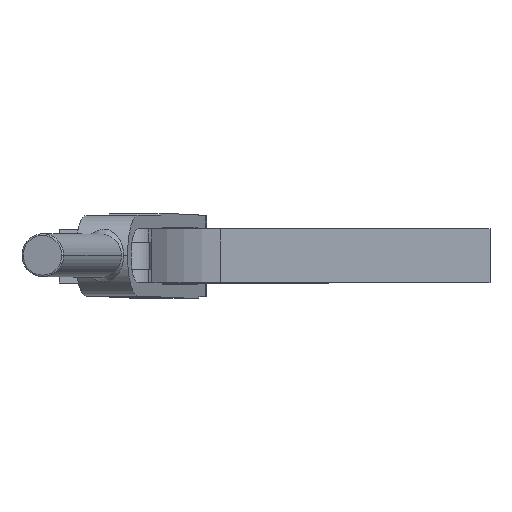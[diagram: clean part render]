
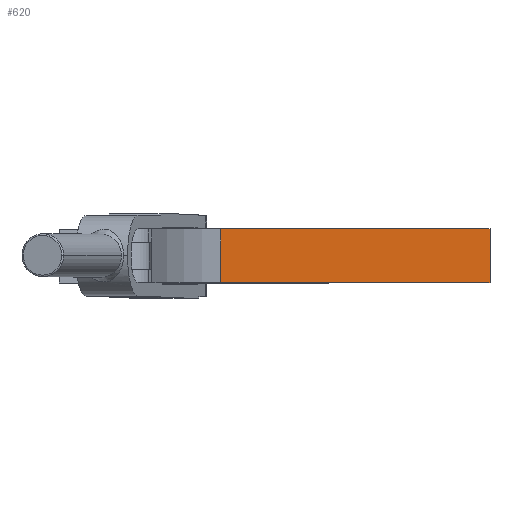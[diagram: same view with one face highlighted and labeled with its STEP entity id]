
A CAD part, top view. The second image highlights one B-rep face of the part: STEP entity #620.
In plain terms, the highlighted planar face has unit normal (0, 0, 1).
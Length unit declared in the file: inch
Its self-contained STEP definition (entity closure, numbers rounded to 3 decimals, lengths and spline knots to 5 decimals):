
#620 = ADVANCED_FACE( '', ( #909 ), #910, .T. );
#909 = FACE_OUTER_BOUND( '', #1243, .T. );
#910 = PLANE( '', #1244 );
#1243 = EDGE_LOOP( '', ( #2315, #2316, #2317, #2318 ) );
#1244 = AXIS2_PLACEMENT_3D( '', #2319, #2320, #2321 );
#2315 = ORIENTED_EDGE( '', *, *, #2953, .F. );
#2316 = ORIENTED_EDGE( '', *, *, #2921, .T. );
#2317 = ORIENTED_EDGE( '', *, *, #2954, .T. );
#2318 = ORIENTED_EDGE( '', *, *, #2887, .F. );
#2319 = CARTESIAN_POINT( '', ( 7.99998, 0.5, 5.25001 ) );
#2320 = DIRECTION( '', ( 0., 0., 1. ) );
#2321 = DIRECTION( '', ( 1., 0., 0. ) );
#2887 = EDGE_CURVE( '', #3485, #3487, #3488, .T. );
#2921 = EDGE_CURVE( '', #3546, #3544, #3547, .T. );
#2953 = EDGE_CURVE( '', #3546, #3485, #3591, .T. );
#2954 = EDGE_CURVE( '', #3544, #3487, #3592, .T. );
#3485 = VERTEX_POINT( '', #4402 );
#3487 = VERTEX_POINT( '', #4404 );
#3488 = LINE( '', #4405, #4406 );
#3544 = VERTEX_POINT( '', #4504 );
#3546 = VERTEX_POINT( '', #4507 );
#3547 = LINE( '', #4508, #4509 );
#3591 = LINE( '', #4642, #4643 );
#3592 = LINE( '', #4644, #4645 );
#4402 = CARTESIAN_POINT( '', ( 2.99998, 0.5, 5.25001 ) );
#4404 = CARTESIAN_POINT( '', ( 7.99998, 0.5, 5.25001 ) );
#4405 = CARTESIAN_POINT( '', ( 2.99998, 0.5, 5.25001 ) );
#4406 = VECTOR( '', #5328, 1. );
#4504 = CARTESIAN_POINT( '', ( 7.99998, -0.5, 5.25001 ) );
#4507 = CARTESIAN_POINT( '', ( 2.99998, -0.5, 5.25001 ) );
#4508 = CARTESIAN_POINT( '', ( 2.99998, -0.5, 5.25001 ) );
#4509 = VECTOR( '', #5381, 1. );
#4642 = CARTESIAN_POINT( '', ( 2.99998, -0.5, 5.25001 ) );
#4643 = VECTOR( '', #5427, 1. );
#4644 = CARTESIAN_POINT( '', ( 7.99998, -0.5, 5.25001 ) );
#4645 = VECTOR( '', #5428, 1. );
#5328 = DIRECTION( '', ( 1., 0., 0. ) );
#5381 = DIRECTION( '', ( 1., 0., 0. ) );
#5427 = DIRECTION( '', ( 0., 1., 0. ) );
#5428 = DIRECTION( '', ( 0., 1., 0. ) );
